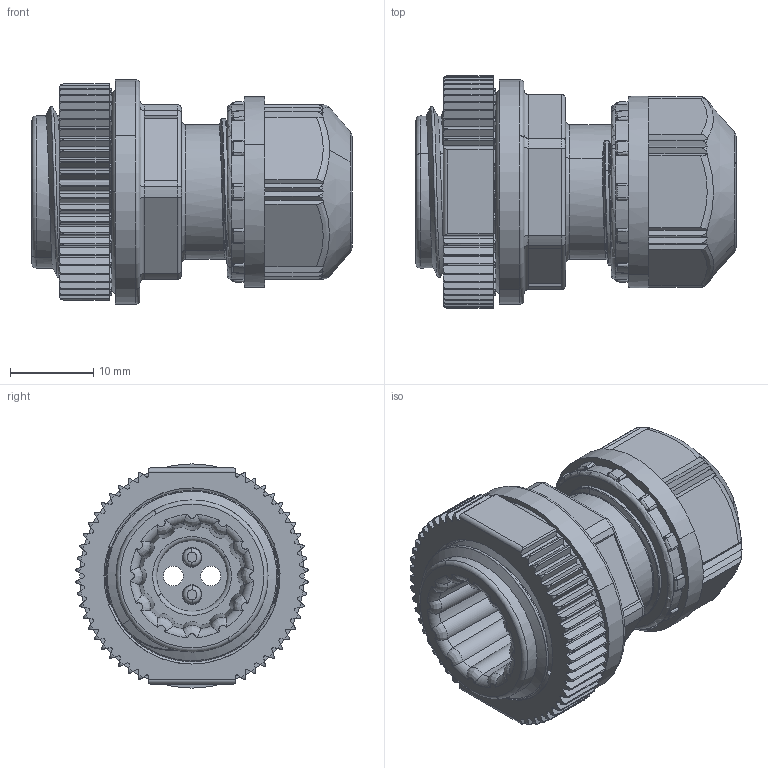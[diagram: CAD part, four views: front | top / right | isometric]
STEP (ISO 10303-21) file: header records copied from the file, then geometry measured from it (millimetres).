
FILE_DESCRIPTION(('Creo Elements/Direct Modeling STEP Export'),'2;1');
FILE_NAME('H05-0029-CL901-02_OA-W16-224.stp','2021-11-30T17:10:58',(''),(''),'Creo Elements/Direct Modeling STEP processor for AP214 (Solid Model)','Creo Elements/Direct Modeling 20.3B 05-Dec-2020 (C) Parametric Technology GmbH','');
FILE_SCHEMA(('AUTOMOTIVE_DESIGN { 1 0 10303 214 1 1 1 1 }'));
Length unit declared in the file: millimetre
Products named in the file (5): BB-022S_1; G08-224; LN-CTG16P; Nipple; OA-W16-224
Assembly tree (5 placements, depth 2):
  OA-W16-224
    Nipple
    LN-CTG16P
    G08-224
    BB-022S_1  x2
Bounding box: 38.52 x 27.96 x 27 mm (x, y, z)
Volume: 12168 mm3; surface area: 9570.3 mm2
Topology: 5 solids, 5 shells, 1069 faces, 2936 edges, 1843 vertices
Faces by surface type: cylinder 357, plane 340, bspline 159, torus 119, sphere 50, cone 44
Entity records: 55022 total; most frequent: CARTESIAN_POINT 29843, ORIENTED_EDGE 5678, DIRECTION 4589, EDGE_CURVE 2839, VERTEX_POINT 1811, AXIS2_PLACEMENT_3D 1741, VECTOR 1107, LINE 1107
